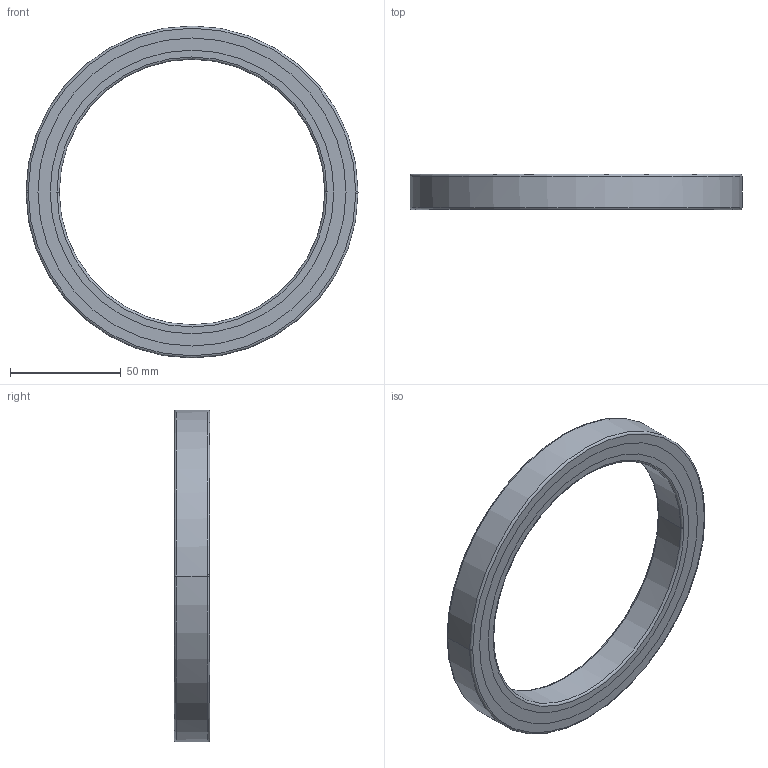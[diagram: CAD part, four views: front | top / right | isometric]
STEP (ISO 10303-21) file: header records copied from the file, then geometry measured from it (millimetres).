
FILE_DESCRIPTION(('no description'),'unknown implementation level');
FILE_NAME('CRBC12016_17.stp',' ',('HIWIN GmbH'),('CADClick - KiM GmbH - www.kimweb.de'),'unknown preprocess','ACIS','unknown authorization');
FILE_SCHEMA(('automotive_design'));
Length unit declared in the file: millimetre
Products named in the file (4): CRBC12016_1; CRBC12016_2; CRBC12016_3; CRBC12016
Bounding box: 150 x 16 x 150 mm (x, y, z)
Volume: 73701.5 mm3; surface area: 46988.6 mm2
Topology: 4 solids, 4 shells, 40 faces, 88 edges, 56 vertices
Faces by surface type: cylinder 16, torus 16, plane 8
Entity records: 2289 total; most frequent: DIRECTION 248, STYLED_ITEM 188, PRESENTATION_STYLE_ASSIGNMENT 188, CARTESIAN_POINT 188, COLOUR_RGB 188, ORIENTED_EDGE 176, AXIS2_PLACEMENT_3D 116, EDGE_CURVE 88
